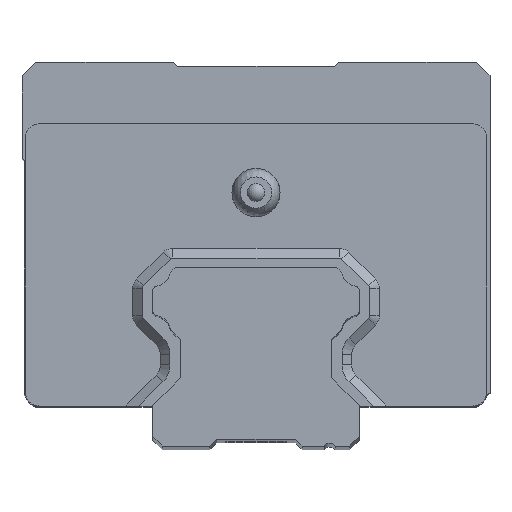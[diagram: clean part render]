
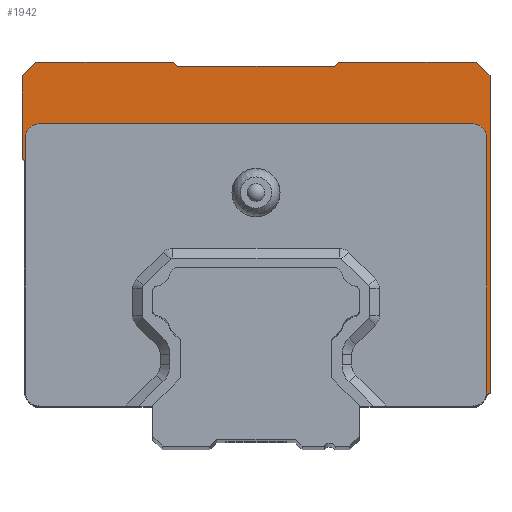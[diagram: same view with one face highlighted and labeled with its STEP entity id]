
A CAD part, top view. The second image highlights one B-rep face of the part: STEP entity #1942.
In plain terms, the highlighted planar face has unit normal (0, 0, 1).
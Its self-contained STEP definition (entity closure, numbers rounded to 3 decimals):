
#1625=CARTESIAN_POINT('',(-16.706,-6.844,17.805));
#1626=VERTEX_POINT('',#1625);
#1652=CARTESIAN_POINT('',(16.706,-6.844,17.805));
#1653=VERTEX_POINT('',#1652);
#1775=CARTESIAN_POINT('',(5.925,-1.951,17.805));
#1776=DIRECTION('',(0.0,0.0,1.0));
#1777=DIRECTION('',(1.0,0.0,0.0));
#1778=AXIS2_PLACEMENT_3D('',#1775,#1776,#1777);
#1779=PLANE('',#1778);
#1780=CARTESIAN_POINT('',(16.75,-6.55,17.805));
#1781=VERTEX_POINT('',#1780);
#1782=CARTESIAN_POINT('',(15.75,-6.55,17.805));
#1783=DIRECTION('',(0.0,0.0,-1.0));
#1784=DIRECTION('',(-1.0,0.0,0.0));
#1785=AXIS2_PLACEMENT_3D('',#1782,#1783,#1784);
#1786=CIRCLE('',#1785,1.);
#1787=EDGE_CURVE('',#1781,#1653,#1786,.T.);
#1788=ORIENTED_EDGE('',*,*,#1787,.T.);
#1789=CARTESIAN_POINT('',(17.,-6.55,17.805));
#1790=VERTEX_POINT('',#1789);
#1791=CARTESIAN_POINT('',(16.706,-6.844,17.805));
#1792=DIRECTION('',(0.707,0.707,0.0));
#1793=VECTOR('',#1792,0.416);
#1794=LINE('',#1791,#1793);
#1795=EDGE_CURVE('',#1653,#1790,#1794,.T.);
#1796=ORIENTED_EDGE('',*,*,#1795,.T.);
#1797=CARTESIAN_POINT('',(17.,16.45,17.805));
#1798=VERTEX_POINT('',#1797);
#1799=CARTESIAN_POINT('',(17.,-6.55,17.805));
#1800=DIRECTION('',(0.0,1.0,0.0));
#1801=VECTOR('',#1800,23.);
#1802=LINE('',#1799,#1801);
#1803=EDGE_CURVE('',#1790,#1798,#1802,.T.);
#1804=ORIENTED_EDGE('',*,*,#1803,.T.);
#1805=CARTESIAN_POINT('',(16.,17.45,17.805));
#1806=VERTEX_POINT('',#1805);
#1807=CARTESIAN_POINT('',(17.,16.45,17.805));
#1808=DIRECTION('',(-0.707,0.707,0.0));
#1809=VECTOR('',#1808,1.414);
#1810=LINE('',#1807,#1809);
#1811=EDGE_CURVE('',#1798,#1806,#1810,.T.);
#1812=ORIENTED_EDGE('',*,*,#1811,.T.);
#1813=CARTESIAN_POINT('',(6.,17.45,17.805));
#1814=VERTEX_POINT('',#1813);
#1815=CARTESIAN_POINT('',(16.,17.45,17.805));
#1816=DIRECTION('',(-1.0,0.0,0.0));
#1817=VECTOR('',#1816,10.);
#1818=LINE('',#1815,#1817);
#1819=EDGE_CURVE('',#1806,#1814,#1818,.T.);
#1820=ORIENTED_EDGE('',*,*,#1819,.T.);
#1821=CARTESIAN_POINT('',(5.7,17.15,17.805));
#1822=VERTEX_POINT('',#1821);
#1823=CARTESIAN_POINT('',(6.,17.45,17.805));
#1824=DIRECTION('',(-0.707,-0.707,0.0));
#1825=VECTOR('',#1824,0.424);
#1826=LINE('',#1823,#1825);
#1827=EDGE_CURVE('',#1814,#1822,#1826,.T.);
#1828=ORIENTED_EDGE('',*,*,#1827,.T.);
#1829=CARTESIAN_POINT('',(-5.7,17.15,17.805));
#1830=VERTEX_POINT('',#1829);
#1831=CARTESIAN_POINT('',(5.7,17.15,17.805));
#1832=DIRECTION('',(-1.0,0.0,0.0));
#1833=VECTOR('',#1832,11.4);
#1834=LINE('',#1831,#1833);
#1835=EDGE_CURVE('',#1822,#1830,#1834,.T.);
#1836=ORIENTED_EDGE('',*,*,#1835,.T.);
#1837=CARTESIAN_POINT('',(-6.,17.45,17.805));
#1838=VERTEX_POINT('',#1837);
#1839=CARTESIAN_POINT('',(-5.7,17.15,17.805));
#1840=DIRECTION('',(-0.707,0.707,0.0));
#1841=VECTOR('',#1840,0.424);
#1842=LINE('',#1839,#1841);
#1843=EDGE_CURVE('',#1830,#1838,#1842,.T.);
#1844=ORIENTED_EDGE('',*,*,#1843,.T.);
#1845=CARTESIAN_POINT('',(-16.,17.45,17.805));
#1846=VERTEX_POINT('',#1845);
#1847=CARTESIAN_POINT('',(-6.,17.45,17.805));
#1848=DIRECTION('',(-1.0,0.0,0.0));
#1849=VECTOR('',#1848,10.);
#1850=LINE('',#1847,#1849);
#1851=EDGE_CURVE('',#1838,#1846,#1850,.T.);
#1852=ORIENTED_EDGE('',*,*,#1851,.T.);
#1853=CARTESIAN_POINT('',(-17.,16.45,17.805));
#1854=VERTEX_POINT('',#1853);
#1855=CARTESIAN_POINT('',(-16.,17.45,17.805));
#1856=DIRECTION('',(-0.707,-0.707,0.0));
#1857=VECTOR('',#1856,1.414);
#1858=LINE('',#1855,#1857);
#1859=EDGE_CURVE('',#1846,#1854,#1858,.T.);
#1860=ORIENTED_EDGE('',*,*,#1859,.T.);
#1861=CARTESIAN_POINT('',(-17.,10.45,17.805));
#1862=VERTEX_POINT('',#1861);
#1863=CARTESIAN_POINT('',(-17.,16.45,17.805));
#1864=DIRECTION('',(0.0,-1.0,0.0));
#1865=VECTOR('',#1864,6.);
#1866=LINE('',#1863,#1865);
#1867=EDGE_CURVE('',#1854,#1862,#1866,.T.);
#1868=ORIENTED_EDGE('',*,*,#1867,.T.);
#1869=CARTESIAN_POINT('',(-16.85,10.3,17.805));
#1870=VERTEX_POINT('',#1869);
#1871=CARTESIAN_POINT('',(-17.,10.45,17.805));
#1872=DIRECTION('',(0.707,-0.707,0.0));
#1873=VECTOR('',#1872,0.212);
#1874=LINE('',#1871,#1873);
#1875=EDGE_CURVE('',#1862,#1870,#1874,.T.);
#1876=ORIENTED_EDGE('',*,*,#1875,.T.);
#1877=CARTESIAN_POINT('',(-16.85,-6.7,17.805));
#1878=VERTEX_POINT('',#1877);
#1879=CARTESIAN_POINT('',(-16.85,10.3,17.805));
#1880=DIRECTION('',(0.0,-1.0,0.0));
#1881=VECTOR('',#1880,17.);
#1882=LINE('',#1879,#1881);
#1883=EDGE_CURVE('',#1870,#1878,#1882,.T.);
#1884=ORIENTED_EDGE('',*,*,#1883,.T.);
#1885=CARTESIAN_POINT('',(-16.85,-6.7,17.805));
#1886=DIRECTION('',(0.707,-0.707,0.0));
#1887=VECTOR('',#1886,0.204);
#1888=LINE('',#1885,#1887);
#1889=EDGE_CURVE('',#1878,#1626,#1888,.T.);
#1890=ORIENTED_EDGE('',*,*,#1889,.T.);
#1891=CARTESIAN_POINT('',(-16.75,-6.55,17.805));
#1892=VERTEX_POINT('',#1891);
#1893=CARTESIAN_POINT('',(-15.75,-6.55,17.805));
#1894=DIRECTION('',(0.0,0.0,-1.0));
#1895=DIRECTION('',(-1.0,0.0,0.0));
#1896=AXIS2_PLACEMENT_3D('',#1893,#1894,#1895);
#1897=CIRCLE('',#1896,1.);
#1898=EDGE_CURVE('',#1626,#1892,#1897,.T.);
#1899=ORIENTED_EDGE('',*,*,#1898,.T.);
#1900=CARTESIAN_POINT('',(-16.75,11.95,17.805));
#1901=VERTEX_POINT('',#1900);
#1902=CARTESIAN_POINT('',(-16.75,-6.55,17.805));
#1903=DIRECTION('',(0.0,1.0,0.0));
#1904=VECTOR('',#1903,18.5);
#1905=LINE('',#1902,#1904);
#1906=EDGE_CURVE('',#1892,#1901,#1905,.T.);
#1907=ORIENTED_EDGE('',*,*,#1906,.T.);
#1908=CARTESIAN_POINT('',(-15.75,12.95,17.805));
#1909=VERTEX_POINT('',#1908);
#1910=CARTESIAN_POINT('',(-15.75,11.95,17.805));
#1911=DIRECTION('',(0.0,0.0,-1.0));
#1912=DIRECTION('',(-1.0,0.0,0.0));
#1913=AXIS2_PLACEMENT_3D('',#1910,#1911,#1912);
#1914=CIRCLE('',#1913,1.);
#1915=EDGE_CURVE('',#1901,#1909,#1914,.T.);
#1916=ORIENTED_EDGE('',*,*,#1915,.T.);
#1917=CARTESIAN_POINT('',(15.75,12.95,17.805));
#1918=VERTEX_POINT('',#1917);
#1919=CARTESIAN_POINT('',(-15.75,12.95,17.805));
#1920=DIRECTION('',(1.0,0.0,0.0));
#1921=VECTOR('',#1920,31.5);
#1922=LINE('',#1919,#1921);
#1923=EDGE_CURVE('',#1909,#1918,#1922,.T.);
#1924=ORIENTED_EDGE('',*,*,#1923,.T.);
#1925=CARTESIAN_POINT('',(16.75,11.95,17.805));
#1926=VERTEX_POINT('',#1925);
#1927=CARTESIAN_POINT('',(15.75,11.95,17.805));
#1928=DIRECTION('',(0.0,0.0,-1.0));
#1929=DIRECTION('',(-1.0,0.0,0.0));
#1930=AXIS2_PLACEMENT_3D('',#1927,#1928,#1929);
#1931=CIRCLE('',#1930,1.);
#1932=EDGE_CURVE('',#1918,#1926,#1931,.T.);
#1933=ORIENTED_EDGE('',*,*,#1932,.T.);
#1934=CARTESIAN_POINT('',(16.75,11.95,17.805));
#1935=DIRECTION('',(0.0,-1.0,0.0));
#1936=VECTOR('',#1935,18.5);
#1937=LINE('',#1934,#1936);
#1938=EDGE_CURVE('',#1926,#1781,#1937,.T.);
#1939=ORIENTED_EDGE('',*,*,#1938,.T.);
#1940=EDGE_LOOP('',(#1788,#1796,#1804,#1812,#1820,#1828,#1836,#1844,#1852,#1860,#1868,#1876,#1884,#1890,#1899,#1907,#1916,#1924,#1933,#1939));
#1941=FACE_OUTER_BOUND('',#1940,.T.);
#1942=ADVANCED_FACE('',(#1941),#1779,.T.);
